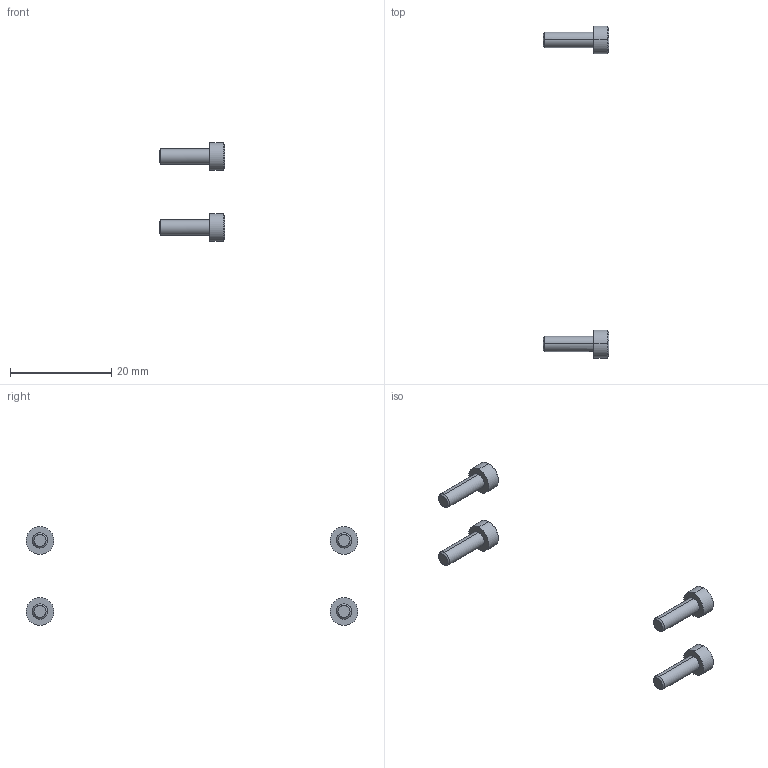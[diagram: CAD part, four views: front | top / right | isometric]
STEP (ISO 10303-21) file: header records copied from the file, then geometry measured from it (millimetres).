
FILE_DESCRIPTION(/* description */ (''),/* implementation_level */ '2;1');
FILE_NAME(/* name */ '5.y-cart#5.7#CB3-10',/* time_stamp */ '2014-12-01T20:13:29+01:00',/* author */ (''),/* organization */ (''),/* preprocessor_version */ 'ST-DEVELOPER v14',/* originating_system */ '',/* authorisation */ '');
FILE_SCHEMA (('AUTOMOTIVE_DESIGN'));
Length unit declared in the file: millimetre
Products named in the file (2): Document; screw DIN912-like, M3x10
Assembly tree (2 placements, depth 2):
  Document
    screw DIN912-like, M3x10  x2
Bounding box: 13 x 65.5 x 19.52 mm (x, y, z)
Volume: 529.8 mm3; surface area: 807.4 mm2
Topology: 4 solids, 4 shells, 100 faces, 224 edges, 132 vertices
Faces by surface type: plane 60, bspline 40
Entity records: 4125 total; most frequent: CARTESIAN_POINT 1889, B_SPLINE_CURVE_WITH_KNOTS 378, ORIENTED_EDGE 324, PCURVE 324, DEFINITIONAL_REPRESENTATION 324, SURFACE_CURVE 162, EDGE_CURVE 162, VERTEX_POINT 99
